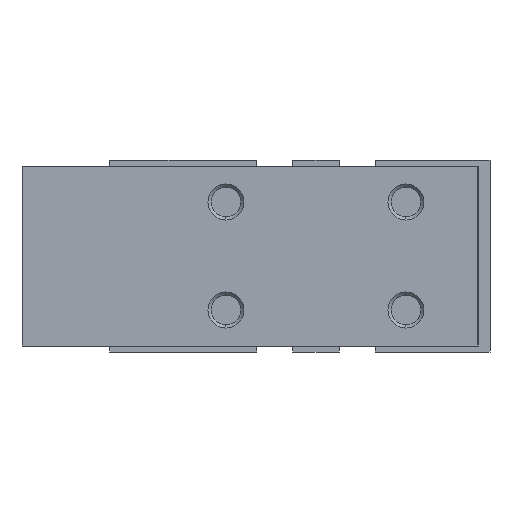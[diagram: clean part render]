
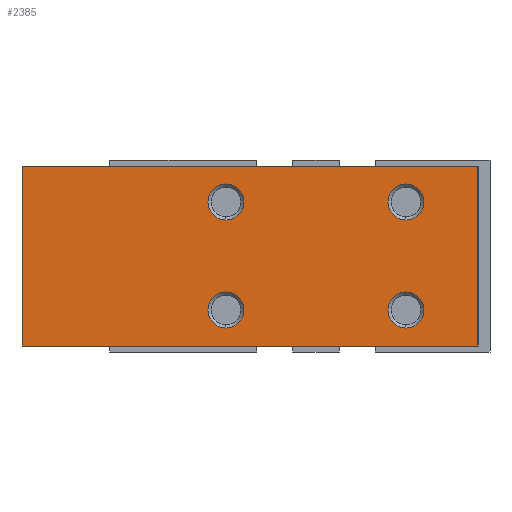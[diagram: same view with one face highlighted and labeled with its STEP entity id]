
A CAD part, left-side view. The second image highlights one B-rep face of the part: STEP entity #2385.
In plain terms, the highlighted planar face has unit normal (-1, 0, 0).
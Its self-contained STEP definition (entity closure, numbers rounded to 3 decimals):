
#29 = LINE ( 'NONE', #2002, #626 ) ;
#64 = VERTEX_POINT ( 'NONE', #5230 ) ;
#90 = CARTESIAN_POINT ( 'NONE',  ( -8.5, 24.5, -7.5 ) ) ;
#103 = DIRECTION ( 'NONE',  ( -1., 0., 0. ) ) ;
#189 = CARTESIAN_POINT ( 'NONE',  ( -8.5, -13.5, 7.5 ) ) ;
#196 = ORIENTED_EDGE ( 'NONE', *, *, #1748, .F. ) ;
#275 = DIRECTION ( 'NONE',  ( 0., 0., 1. ) ) ;
#278 = VERTEX_POINT ( 'NONE', #5499 ) ;
#342 = CIRCLE ( 'NONE', #3040, 1.5 ) ;
#377 = CARTESIAN_POINT ( 'NONE',  ( -8.5, 7.5, 6. ) ) ;
#387 = FACE_BOUND ( 'NONE', #1981, .T. ) ;
#406 = FACE_BOUND ( 'NONE', #802, .T. ) ;
#434 = DIRECTION ( 'NONE',  ( -1., 0., 0. ) ) ;
#554 = AXIS2_PLACEMENT_3D ( 'NONE', #4316, #4809, #1651 ) ;
#565 = EDGE_CURVE ( 'NONE', #5347, #5120, #4901, .T. ) ;
#626 = VECTOR ( 'NONE', #3858, 1000. ) ;
#643 = VERTEX_POINT ( 'NONE', #805 ) ;
#679 = AXIS2_PLACEMENT_3D ( 'NONE', #5753, #2079, #4017 ) ;
#681 = ORIENTED_EDGE ( 'NONE', *, *, #4346, .F. ) ;
#802 = EDGE_LOOP ( 'NONE', ( #4798, #1880 ) ) ;
#805 = CARTESIAN_POINT ( 'NONE',  ( -8.5, 7.5, -6. ) ) ;
#844 = FACE_OUTER_BOUND ( 'NONE', #4750, .T. ) ;
#860 = DIRECTION ( 'NONE',  ( 0., 0., 1. ) ) ;
#895 = DIRECTION ( 'NONE',  ( -1., 0., 0. ) ) ;
#1099 = DIRECTION ( 'NONE',  ( 0., 0., -1. ) ) ;
#1122 = AXIS2_PLACEMENT_3D ( 'NONE', #1833, #895, #5004 ) ;
#1153 = ORIENTED_EDGE ( 'NONE', *, *, #2411, .F. ) ;
#1170 = DIRECTION ( 'NONE',  ( 0., 0., 1. ) ) ;
#1343 = CARTESIAN_POINT ( 'NONE',  ( -8.5, 24.5, 7.5 ) ) ;
#1428 = ORIENTED_EDGE ( 'NONE', *, *, #2243, .T. ) ;
#1462 = CARTESIAN_POINT ( 'NONE',  ( -8.5, -7.5, 3. ) ) ;
#1536 = EDGE_CURVE ( 'NONE', #3698, #3232, #3441, .T. ) ;
#1651 = DIRECTION ( 'NONE',  ( 0., 0., 1. ) ) ;
#1748 = EDGE_CURVE ( 'NONE', #5073, #5437, #3372, .T. ) ;
#1774 = EDGE_CURVE ( 'NONE', #5347, #5073, #29, .T. ) ;
#1833 = CARTESIAN_POINT ( 'NONE',  ( -8.5, -7.5, -4.5 ) ) ;
#1880 = ORIENTED_EDGE ( 'NONE', *, *, #2281, .F. ) ;
#1981 = EDGE_LOOP ( 'NONE', ( #681, #4857 ) ) ;
#2002 = CARTESIAN_POINT ( 'NONE',  ( -8.5, 24.5, 7.5 ) ) ;
#2074 = CARTESIAN_POINT ( 'NONE',  ( -8.5, 24.5, 7.5 ) ) ;
#2079 = DIRECTION ( 'NONE',  ( -1., 0., 0. ) ) ;
#2085 = VERTEX_POINT ( 'NONE', #1462 ) ;
#2086 = DIRECTION ( 'NONE',  ( 0., -1., 0. ) ) ;
#2233 = CARTESIAN_POINT ( 'NONE',  ( -8.5, -13.5, -7.5 ) ) ;
#2243 = EDGE_CURVE ( 'NONE', #5120, #5437, #5268, .T. ) ;
#2281 = EDGE_CURVE ( 'NONE', #4966, #4526, #5403, .T. ) ;
#2285 = DIRECTION ( 'NONE',  ( 1., 0., 0. ) ) ;
#2290 = VECTOR ( 'NONE', #2086, 1000. ) ;
#2311 = DIRECTION ( 'NONE',  ( 0., 0., 1. ) ) ;
#2329 = CARTESIAN_POINT ( 'NONE',  ( -8.5, -13.5, 7.5 ) ) ;
#2385 = ADVANCED_FACE ( 'NONE', ( #844, #4536, #387, #5935, #406 ), #5503, .F. ) ;
#2411 = EDGE_CURVE ( 'NONE', #278, #643, #2864, .T. ) ;
#2522 = ORIENTED_EDGE ( 'NONE', *, *, #5015, .F. ) ;
#2523 = CARTESIAN_POINT ( 'NONE',  ( -8.5, -7.5, 4.5 ) ) ;
#2611 = EDGE_LOOP ( 'NONE', ( #5241, #2522 ) ) ;
#2673 = EDGE_CURVE ( 'NONE', #643, #278, #4827, .T. ) ;
#2864 = CIRCLE ( 'NONE', #4916, 1.5 ) ;
#3021 = CARTESIAN_POINT ( 'NONE',  ( -8.5, 7.5, 4.5 ) ) ;
#3040 = AXIS2_PLACEMENT_3D ( 'NONE', #3403, #103, #1170 ) ;
#3159 = CARTESIAN_POINT ( 'NONE',  ( -8.5, -7.5, -4.5 ) ) ;
#3176 = CARTESIAN_POINT ( 'NONE',  ( -8.5, 7.5, 3. ) ) ;
#3180 = CIRCLE ( 'NONE', #679, 1.5 ) ;
#3232 = VERTEX_POINT ( 'NONE', #5029 ) ;
#3281 = ORIENTED_EDGE ( 'NONE', *, *, #1774, .F. ) ;
#3337 = DIRECTION ( 'NONE',  ( 0., 0., -1. ) ) ;
#3372 = LINE ( 'NONE', #2329, #3803 ) ;
#3403 = CARTESIAN_POINT ( 'NONE',  ( -8.5, -7.5, 4.5 ) ) ;
#3441 = CIRCLE ( 'NONE', #5563, 1.5 ) ;
#3567 = DIRECTION ( 'NONE',  ( 0., 1., 0. ) ) ;
#3698 = VERTEX_POINT ( 'NONE', #4560 ) ;
#3719 = CIRCLE ( 'NONE', #1122, 1.5 ) ;
#3803 = VECTOR ( 'NONE', #3337, 1000. ) ;
#3858 = DIRECTION ( 'NONE',  ( 0., -1., 0. ) ) ;
#3898 = EDGE_CURVE ( 'NONE', #4526, #4966, #3180, .T. ) ;
#4017 = DIRECTION ( 'NONE',  ( 0., 0., 1. ) ) ;
#4091 = AXIS2_PLACEMENT_3D ( 'NONE', #2523, #4863, #4372 ) ;
#4187 = CIRCLE ( 'NONE', #4091, 1.5 ) ;
#4316 = CARTESIAN_POINT ( 'NONE',  ( -8.5, 7.5, -4.5 ) ) ;
#4346 = EDGE_CURVE ( 'NONE', #64, #2085, #342, .T. ) ;
#4372 = DIRECTION ( 'NONE',  ( 0., 0., 1. ) ) ;
#4526 = VERTEX_POINT ( 'NONE', #377 ) ;
#4536 = FACE_BOUND ( 'NONE', #5505, .T. ) ;
#4560 = CARTESIAN_POINT ( 'NONE',  ( -8.5, -7.5, -3. ) ) ;
#4565 = ORIENTED_EDGE ( 'NONE', *, *, #2673, .F. ) ;
#4708 = AXIS2_PLACEMENT_3D ( 'NONE', #1343, #2285, #3567 ) ;
#4750 = EDGE_LOOP ( 'NONE', ( #1428, #196, #3281, #5970 ) ) ;
#4798 = ORIENTED_EDGE ( 'NONE', *, *, #3898, .F. ) ;
#4809 = DIRECTION ( 'NONE',  ( -1., 0., 0. ) ) ;
#4827 = CIRCLE ( 'NONE', #554, 1.5 ) ;
#4857 = ORIENTED_EDGE ( 'NONE', *, *, #5994, .F. ) ;
#4863 = DIRECTION ( 'NONE',  ( -1., 0., 0. ) ) ;
#4877 = DIRECTION ( 'NONE',  ( -1., 0., 0. ) ) ;
#4901 = LINE ( 'NONE', #2074, #5458 ) ;
#4916 = AXIS2_PLACEMENT_3D ( 'NONE', #5044, #434, #2311 ) ;
#4938 = CARTESIAN_POINT ( 'NONE',  ( -8.5, 24.5, -7.5 ) ) ;
#4966 = VERTEX_POINT ( 'NONE', #3176 ) ;
#5004 = DIRECTION ( 'NONE',  ( 0., 0., 1. ) ) ;
#5013 = DIRECTION ( 'NONE',  ( -1., 0., 0. ) ) ;
#5015 = EDGE_CURVE ( 'NONE', #3232, #3698, #3719, .T. ) ;
#5029 = CARTESIAN_POINT ( 'NONE',  ( -8.5, -7.5, -6. ) ) ;
#5044 = CARTESIAN_POINT ( 'NONE',  ( -8.5, 7.5, -4.5 ) ) ;
#5073 = VERTEX_POINT ( 'NONE', #189 ) ;
#5120 = VERTEX_POINT ( 'NONE', #90 ) ;
#5230 = CARTESIAN_POINT ( 'NONE',  ( -8.5, -7.5, 6. ) ) ;
#5241 = ORIENTED_EDGE ( 'NONE', *, *, #1536, .F. ) ;
#5268 = LINE ( 'NONE', #4938, #2290 ) ;
#5312 = AXIS2_PLACEMENT_3D ( 'NONE', #3021, #4877, #275 ) ;
#5347 = VERTEX_POINT ( 'NONE', #5449 ) ;
#5403 = CIRCLE ( 'NONE', #5312, 1.5 ) ;
#5437 = VERTEX_POINT ( 'NONE', #2233 ) ;
#5449 = CARTESIAN_POINT ( 'NONE',  ( -8.5, 24.5, 7.5 ) ) ;
#5458 = VECTOR ( 'NONE', #1099, 1000. ) ;
#5499 = CARTESIAN_POINT ( 'NONE',  ( -8.5, 7.5, -3. ) ) ;
#5503 = PLANE ( 'NONE',  #4708 ) ;
#5505 = EDGE_LOOP ( 'NONE', ( #1153, #4565 ) ) ;
#5563 = AXIS2_PLACEMENT_3D ( 'NONE', #3159, #5013, #860 ) ;
#5753 = CARTESIAN_POINT ( 'NONE',  ( -8.5, 7.5, 4.5 ) ) ;
#5935 = FACE_BOUND ( 'NONE', #2611, .T. ) ;
#5970 = ORIENTED_EDGE ( 'NONE', *, *, #565, .T. ) ;
#5994 = EDGE_CURVE ( 'NONE', #2085, #64, #4187, .T. ) ;
